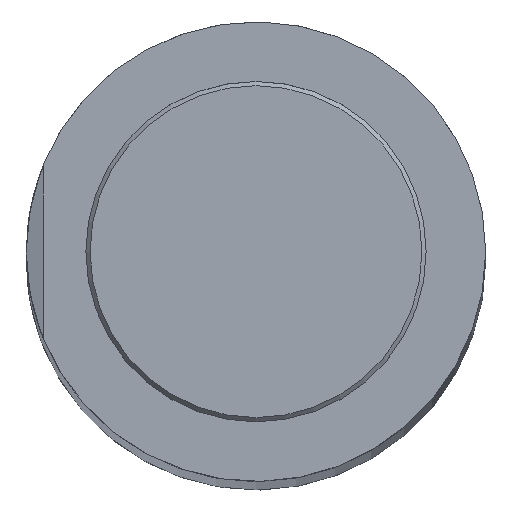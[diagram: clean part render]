
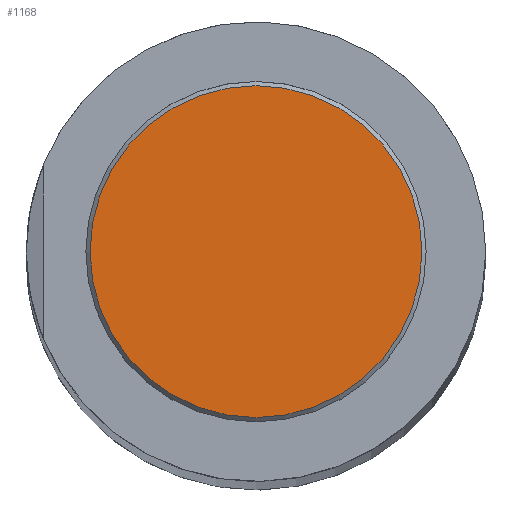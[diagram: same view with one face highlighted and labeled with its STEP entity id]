
A CAD part, top view. The second image highlights one B-rep face of the part: STEP entity #1168.
In plain terms, the highlighted planar face has unit normal (0, 0, 1) as drawn and (-1, 0, 0) by its records, which use the part's own axes.
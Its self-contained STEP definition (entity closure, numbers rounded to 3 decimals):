
#234=PLANE('',#1314);
#350=FACE_OUTER_BOUND('',#469,.T.);
#469=EDGE_LOOP('',(#975));
#540=CIRCLE('',#1313,19.5);
#624=VERTEX_POINT('',#1972);
#748=EDGE_CURVE('',#624,#624,#540,.T.);
#975=ORIENTED_EDGE('',*,*,#748,.T.);
#1168=ADVANCED_FACE('',(#350),#234,.T.);
#1313=AXIS2_PLACEMENT_3D('',#1973,#1601,#1602);
#1314=AXIS2_PLACEMENT_3D('',#1974,#1603,#1604);
#1601=DIRECTION('center_axis',(-1.,0.,0.));
#1602=DIRECTION('ref_axis',(0.,0.,1.));
#1603=DIRECTION('center_axis',(-1.,0.,0.));
#1604=DIRECTION('ref_axis',(0.,0.,1.));
#1972=CARTESIAN_POINT('',(-23.,0.,19.5));
#1973=CARTESIAN_POINT('Origin',(-23.,0.,0.));
#1974=CARTESIAN_POINT('Origin',(-23.,0.,0.));
